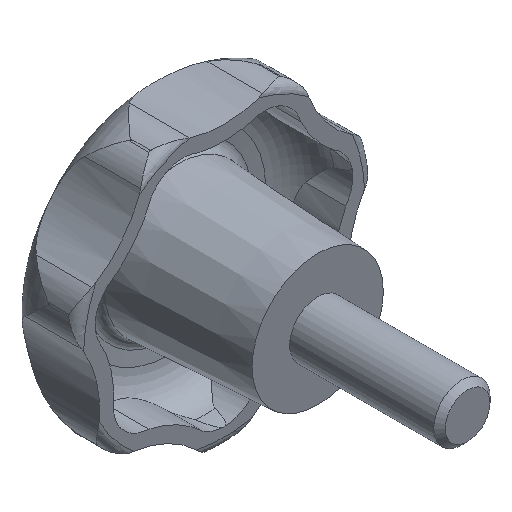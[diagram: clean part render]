
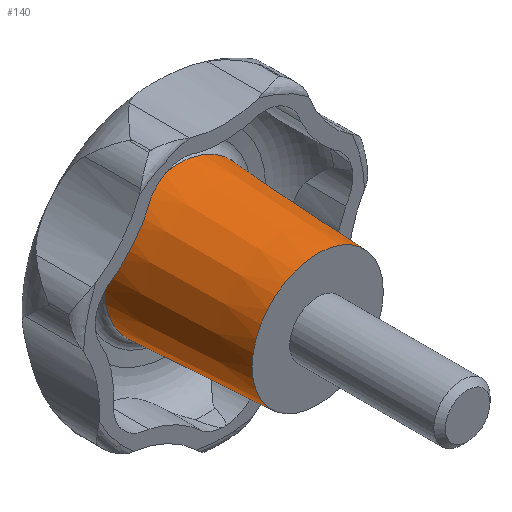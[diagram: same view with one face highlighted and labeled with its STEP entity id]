
A CAD part, isometric view. The second image highlights one B-rep face of the part: STEP entity #140.
In plain terms, the highlighted conical face has half-angle 3 degrees and reference radius 7.784 mm.
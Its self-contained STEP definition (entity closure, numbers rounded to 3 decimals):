
#140 = ADVANCED_FACE( '', ( #288, #289 ), #290, .T. );
#288 = FACE_BOUND( '', #447, .T. );
#289 = FACE_OUTER_BOUND( '', #448, .T. );
#290 = CONICAL_SURFACE( '', #449, 7.784, 0.052 );
#447 = EDGE_LOOP( '', ( #1027 ) );
#448 = EDGE_LOOP( '', ( #1028 ) );
#449 = AXIS2_PLACEMENT_3D( '', #1029, #1030, #1031 );
#1027 = ORIENTED_EDGE( '', *, *, #1142, .F. );
#1028 = ORIENTED_EDGE( '', *, *, #1282, .T. );
#1029 = CARTESIAN_POINT( '', ( 0., 14.966, 0. ) );
#1030 = DIRECTION( '', ( 0., 1., 0. ) );
#1031 = DIRECTION( '', ( 0., 0., 1. ) );
#1142 = EDGE_CURVE( '', #1393, #1393, #1394, .T. );
#1282 = EDGE_CURVE( '', #1610, #1610, #1611, .T. );
#1393 = VERTEX_POINT( '', #2073 );
#1394 = CIRCLE( '', #2074, 7. );
#1610 = VERTEX_POINT( '', #2981 );
#1611 = CIRCLE( '', #2982, 7.784 );
#2073 = CARTESIAN_POINT( '', ( 0., 0., -7. ) );
#2074 = AXIS2_PLACEMENT_3D( '', #3046, #3047, #3048 );
#2981 = CARTESIAN_POINT( '', ( 0., 14.966, -7.784 ) );
#2982 = AXIS2_PLACEMENT_3D( '', #3236, #3237, #3238 );
#3046 = CARTESIAN_POINT( '', ( 0., 0., 0. ) );
#3047 = DIRECTION( '', ( 0., -1., 0. ) );
#3048 = DIRECTION( '', ( 0., 0., -1. ) );
#3236 = CARTESIAN_POINT( '', ( 0., 14.966, 0. ) );
#3237 = DIRECTION( '', ( 0., -1., 0. ) );
#3238 = DIRECTION( '', ( 0., 0., -1. ) );
